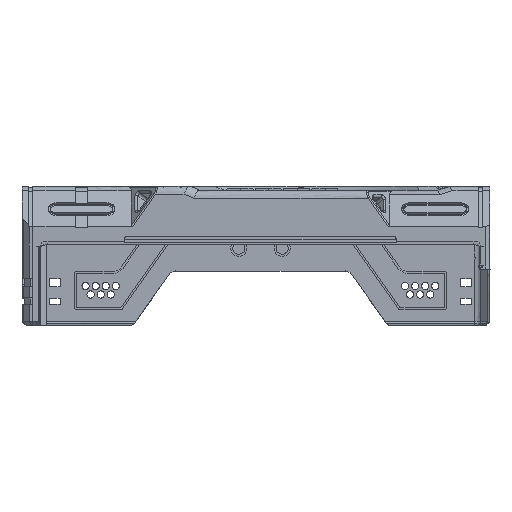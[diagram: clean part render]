
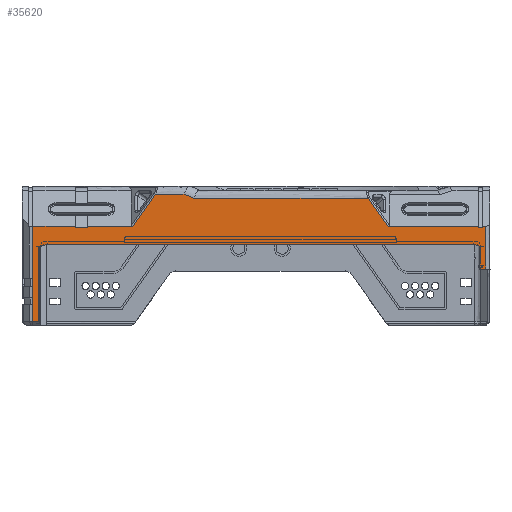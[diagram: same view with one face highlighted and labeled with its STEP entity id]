
A CAD part, front view. The second image highlights one B-rep face of the part: STEP entity #35620.
In plain terms, the highlighted free-form (B-spline) face has degree [1, 1] with [2, 2] control points.
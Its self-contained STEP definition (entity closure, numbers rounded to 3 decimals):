
#1276=DIRECTION('',(0.577,0.,-0.816));
#1277=VECTOR('',#1276,8.538);
#1278=CARTESIAN_POINT('',(26.786,-165.,30.7));
#1279=LINE('',#1278,#1277);
#1283=DIRECTION('',(1.,0.,0.));
#1284=VECTOR('',#1283,22.484);
#1285=CARTESIAN_POINT('',(31.716,-165.,23.728));
#1286=LINE('',#1285,#1284);
#1290=DIRECTION('',(1.,0.,0.));
#1291=VECTOR('',#1290,0.8);
#1292=CARTESIAN_POINT('',(55.2,-165.,23.728));
#1293=LINE('',#1292,#1291);
#1297=DIRECTION('',(-0.002,0.,1.));
#1298=VECTOR('',#1297,5.722);
#1299=CARTESIAN_POINT('',(54.48,-165.001,13.11));
#1300=LINE('',#1299,#1298);
#1304=DIRECTION('',(1.,0.,0.));
#1305=VECTOR('',#1304,11.251);
#1306=CARTESIAN_POINT('',(-42.967,-165.,
23.728));
#1307=LINE('',#1306,#1305);
#1311=DIRECTION('',(0.577,0.,0.816));
#1312=VECTOR('',#1311,9.763);
#1313=CARTESIAN_POINT('',(-31.716,-165.,
23.728));
#1314=LINE('',#1313,#1312);
#1318=DIRECTION('',(0.921,0.,-0.39));
#1319=VECTOR('',#1318,2.562);
#1320=CARTESIAN_POINT('',(-18.974,-165.,
31.7));
#1321=LINE('',#1320,#1319);
#5489=DIRECTION('',(0.,0.,-1.));
#5490=VECTOR('',#5489,23.728);
#5491=CARTESIAN_POINT('',(-56.5,-165.,
23.728));
#5492=LINE('',#5491,#5490);
#19475=DIRECTION('',(1.,0.,0.));
#19476=VECTOR('',#19475,1.493);
#19477=CARTESIAN_POINT('',(-56.5,-165.,0.));
#19478=LINE('',#19477,#19476);
#19501=DIRECTION('',(0.,0.,1.));
#19502=VECTOR('',#19501,18.479);
#19503=CARTESIAN_POINT('',(-55.007,-165.,0.));
#19504=LINE('',#19503,#19502);
#19532=CARTESIAN_POINT('',(-55.007,-165.,
18.479));
#19533=CARTESIAN_POINT('',(-54.827,-165.,
18.617));
#19534=CARTESIAN_POINT('',(-54.471,-165.,
18.848));
#19535=CARTESIAN_POINT('',(-53.961,-165.,
19.075));
#19536=CARTESIAN_POINT('',(-53.487,-165.,
19.199));
#19537=CARTESIAN_POINT('',(-53.192,-165.,
19.224));
#19538=CARTESIAN_POINT('',(-53.051,-165.,
19.224));
#19551=DIRECTION('',(1.,0.,0.));
#19552=VECTOR('',#19551,106.101);
#19553=CARTESIAN_POINT('',(-53.051,-165.,
19.224));
#19554=LINE('',#19553,#19552);
#19635=CARTESIAN_POINT('',(53.051,-165.,
19.224));
#19636=CARTESIAN_POINT('',(53.21,-165.,
19.224));
#19637=CARTESIAN_POINT('',(53.527,-165.,
19.192));
#19638=CARTESIAN_POINT('',(53.986,-165.,
19.065));
#19639=CARTESIAN_POINT('',(54.306,-165.,
18.92));
#19640=CARTESIAN_POINT('',(54.468,-165.,
18.832));
#19782=DIRECTION('',(1.,0.,0.));
#19783=VECTOR('',#19782,1.52);
#19784=CARTESIAN_POINT('',(54.48,-165.001,
13.11));
#19785=LINE('',#19784,#19783);
#19806=DIRECTION('',(0.,0.,1.));
#19807=VECTOR('',#19806,10.618);
#19808=CARTESIAN_POINT('',(56.,-165.,13.11));
#19809=LINE('',#19808,#19807);
#19842=DIRECTION('',(0.,0.,-1.));
#19843=VECTOR('',#19842,0.424);
#19844=CARTESIAN_POINT('',(55.2,-165.,
23.728));
#19845=LINE('',#19844,#19843);
#20025=DIRECTION('',(-1.,0.,0.));
#20026=VECTOR('',#20025,1.);
#20027=CARTESIAN_POINT('',(55.2,-165.,
23.304));
#20028=LINE('',#20027,#20026);
#20075=DIRECTION('',(0.,0.,1.));
#20076=VECTOR('',#20075,0.424);
#20077=CARTESIAN_POINT('',(54.2,-165.,
23.304));
#20078=LINE('',#20077,#20076);
#27317=DIRECTION('',(0.,0.,-1.));
#27318=VECTOR('',#27317,0.424);
#27319=CARTESIAN_POINT('',(-42.967,-165.,
23.728));
#27320=LINE('',#27319,#27318);
#27331=DIRECTION('',(-1.,0.,0.));
#27332=VECTOR('',#27331,3.);
#27333=CARTESIAN_POINT('',(-42.967,-165.,
23.304));
#27334=LINE('',#27333,#27332);
#27352=DIRECTION('',(0.,0.,1.));
#27353=VECTOR('',#27352,0.424);
#27354=CARTESIAN_POINT('',(-45.967,-165.,
23.304));
#27355=LINE('',#27354,#27353);
#27373=DIRECTION('',(-1.,0.,0.));
#27374=VECTOR('',#27373,10.533);
#27375=CARTESIAN_POINT('',(-45.967,-165.,
23.728));
#27376=LINE('',#27375,#27374);
#29651=DIRECTION('',(-1.,0.,0.));
#29652=VECTOR('',#29651,43.401);
#29653=CARTESIAN_POINT('',(26.786,-165.,
30.7));
#29654=LINE('',#29653,#29652);
#29711=DIRECTION('',(-1.,0.,0.));
#29712=VECTOR('',#29711,7.105);
#29713=CARTESIAN_POINT('',(-18.974,-165.,
31.7));
#29714=LINE('',#29713,#29712);
#30783=CARTESIAN_POINT('',(-56.5,-165.,
23.728));
#30784=VERTEX_POINT('',#30783);
#30785=CARTESIAN_POINT('',(-56.5,-165.,0.));
#30786=VERTEX_POINT('',#30785);
#31307=CARTESIAN_POINT('',(-55.007,-165.,0.));
#31308=VERTEX_POINT('',#31307);
#31312=CARTESIAN_POINT('',(26.786,-165.,
30.7));
#31313=CARTESIAN_POINT('',(31.716,-165.,
23.728));
#31314=VERTEX_POINT('',#31312);
#31315=VERTEX_POINT('',#31313);
#31316=CARTESIAN_POINT('',(54.2,-165.,
23.728));
#31317=VERTEX_POINT('',#31316);
#31318=CARTESIAN_POINT('',(54.2,-165.,
23.304));
#31319=VERTEX_POINT('',#31318);
#31320=CARTESIAN_POINT('',(55.2,-165.,
23.304));
#31321=VERTEX_POINT('',#31320);
#31322=CARTESIAN_POINT('',(55.2,-165.,
23.728));
#31323=VERTEX_POINT('',#31322);
#31324=CARTESIAN_POINT('',(56.,-165.,
23.728));
#31325=VERTEX_POINT('',#31324);
#31326=CARTESIAN_POINT('',(56.,-165.,13.11));
#31327=VERTEX_POINT('',#31326);
#31328=CARTESIAN_POINT('',(54.48,-165.001,
13.11));
#31329=VERTEX_POINT('',#31328);
#31330=CARTESIAN_POINT('',(54.468,-165.,
18.832));
#31331=VERTEX_POINT('',#31330);
#31332=VERTEX_POINT('',#19635);
#31333=CARTESIAN_POINT('',(-53.051,-165.,
19.224));
#31334=VERTEX_POINT('',#31333);
#31335=VERTEX_POINT('',#19532);
#31336=CARTESIAN_POINT('',(-45.967,-165.,
23.728));
#31337=VERTEX_POINT('',#31336);
#31338=CARTESIAN_POINT('',(-45.967,-165.,
23.304));
#31339=VERTEX_POINT('',#31338);
#31340=CARTESIAN_POINT('',(-42.967,-165.,
23.304));
#31341=VERTEX_POINT('',#31340);
#31342=CARTESIAN_POINT('',(-42.967,-165.,
23.728));
#31343=VERTEX_POINT('',#31342);
#31344=CARTESIAN_POINT('',(-31.716,-165.,
23.728));
#31345=VERTEX_POINT('',#31344);
#31346=CARTESIAN_POINT('',(-26.079,-165.,
31.7));
#31347=VERTEX_POINT('',#31346);
#31348=CARTESIAN_POINT('',(-18.974,-165.,
31.7));
#31349=VERTEX_POINT('',#31348);
#31350=CARTESIAN_POINT('',(-16.614,-165.,30.7));
#31351=VERTEX_POINT('',#31350);
#35566=CARTESIAN_POINT('',(-58.75,-165.,
-0.634));
#35567=CARTESIAN_POINT('',(-58.75,-165.,
32.334));
#35568=CARTESIAN_POINT('',(58.25,-165.,
-0.634));
#35569=CARTESIAN_POINT('',(58.25,-165.,
32.334));
#35570=B_SPLINE_SURFACE_WITH_KNOTS('',1,1,((#35566,#35567),(#35568,#35569)),
.UNSPECIFIED.,.F.,.F.,.F.,(2,2),(2,2),(0.45,117.45),(-34.334,
-1.366),.UNSPECIFIED.);
#35572=ORIENTED_EDGE('',*,*,#35571,.T.);
#35574=ORIENTED_EDGE('',*,*,#35573,.T.);
#35576=ORIENTED_EDGE('',*,*,#35575,.F.);
#35578=ORIENTED_EDGE('',*,*,#35577,.F.);
#35580=ORIENTED_EDGE('',*,*,#35579,.F.);
#35582=ORIENTED_EDGE('',*,*,#35581,.T.);
#35584=ORIENTED_EDGE('',*,*,#35583,.F.);
#35586=ORIENTED_EDGE('',*,*,#35585,.F.);
#35588=ORIENTED_EDGE('',*,*,#35587,.T.);
#35590=ORIENTED_EDGE('',*,*,#35589,.F.);
#35592=ORIENTED_EDGE('',*,*,#35591,.F.);
#35594=ORIENTED_EDGE('',*,*,#35593,.F.);
#35596=ORIENTED_EDGE('',*,*,#35595,.F.);
#35598=ORIENTED_EDGE('',*,*,#35597,.F.);
#35600=ORIENTED_EDGE('',*,*,#35599,.F.);
#35602=ORIENTED_EDGE('',*,*,#35601,.F.);
#35604=ORIENTED_EDGE('',*,*,#35603,.F.);
#35606=ORIENTED_EDGE('',*,*,#35605,.F.);
#35608=ORIENTED_EDGE('',*,*,#35607,.F.);
#35610=ORIENTED_EDGE('',*,*,#35609,.T.);
#35611=ORIENTED_EDGE('',*,*,#35559,.T.);
#35613=ORIENTED_EDGE('',*,*,#35612,.F.);
#35615=ORIENTED_EDGE('',*,*,#35614,.T.);
#35617=ORIENTED_EDGE('',*,*,#35616,.F.);
#35618=EDGE_LOOP('',(#35572,#35574,#35576,#35578,#35580,#35582,#35584,#35586,
#35588,#35590,#35592,#35594,#35596,#35598,#35600,#35602,#35604,#35606,#35608,
#35610,#35611,#35613,#35615,#35617));
#35619=FACE_OUTER_BOUND('',#35618,.F.);
#19539=B_SPLINE_CURVE_WITH_KNOTS('',3,(#19532,#19533,#19534,#19535,#19536,
#19537,#19538),.UNSPECIFIED.,.F.,.F.,(4,1,1,1,4),(0.,0.25,0.5,0.75,
1.),.UNSPECIFIED.);
#19641=B_SPLINE_CURVE_WITH_KNOTS('',3,(#19635,#19636,#19637,#19638,#19639,
#19640),.UNSPECIFIED.,.F.,.F.,(4,1,1,4),(0.,0.333,
0.667,1.),.UNSPECIFIED.);
#35559=EDGE_CURVE('',#31345,#31347,#1314,.T.);
#35571=EDGE_CURVE('',#31314,#31315,#1279,.T.);
#35573=EDGE_CURVE('',#31315,#31317,#1286,.T.);
#35575=EDGE_CURVE('',#31319,#31317,#20078,.T.);
#35577=EDGE_CURVE('',#31321,#31319,#20028,.T.);
#35579=EDGE_CURVE('',#31323,#31321,#19845,.T.);
#35581=EDGE_CURVE('',#31323,#31325,#1293,.T.);
#35583=EDGE_CURVE('',#31327,#31325,#19809,.T.);
#35585=EDGE_CURVE('',#31329,#31327,#19785,.T.);
#35587=EDGE_CURVE('',#31329,#31331,#1300,.T.);
#35589=EDGE_CURVE('',#31332,#31331,#19641,.T.);
#35591=EDGE_CURVE('',#31334,#31332,#19554,.T.);
#35593=EDGE_CURVE('',#31335,#31334,#19539,.T.);
#35595=EDGE_CURVE('',#31308,#31335,#19504,.T.);
#35597=EDGE_CURVE('',#30786,#31308,#19478,.T.);
#35599=EDGE_CURVE('',#30784,#30786,#5492,.T.);
#35601=EDGE_CURVE('',#31337,#30784,#27376,.T.);
#35603=EDGE_CURVE('',#31339,#31337,#27355,.T.);
#35605=EDGE_CURVE('',#31341,#31339,#27334,.T.);
#35607=EDGE_CURVE('',#31343,#31341,#27320,.T.);
#35609=EDGE_CURVE('',#31343,#31345,#1307,.T.);
#35612=EDGE_CURVE('',#31349,#31347,#29714,.T.);
#35614=EDGE_CURVE('',#31349,#31351,#1321,.T.);
#35616=EDGE_CURVE('',#31314,#31351,#29654,.T.);
#35620=ADVANCED_FACE('',(#35619),#35570,.T.);
